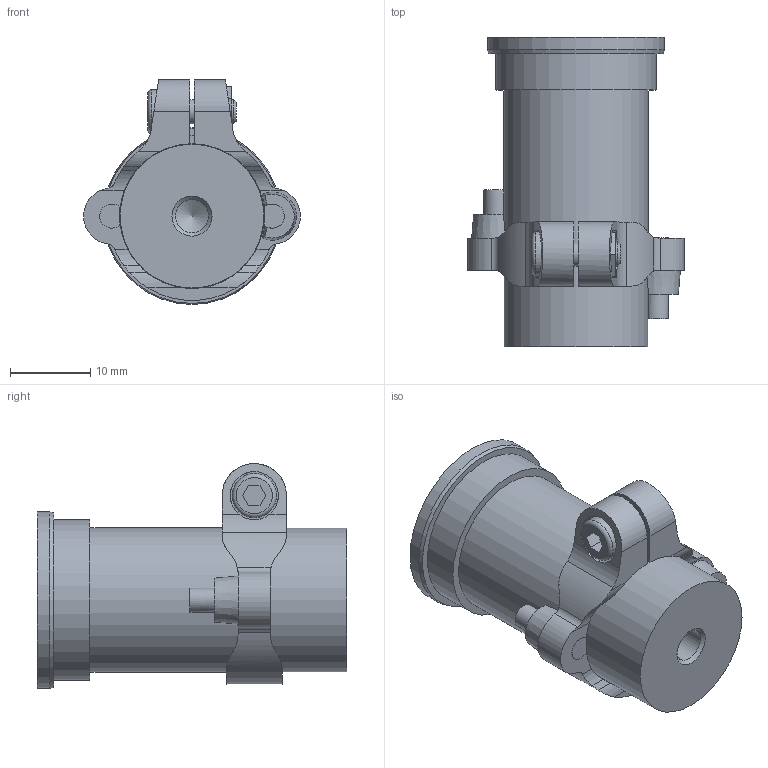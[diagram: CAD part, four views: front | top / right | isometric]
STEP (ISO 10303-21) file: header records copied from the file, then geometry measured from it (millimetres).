
FILE_DESCRIPTION( ( 'STEP AP214' ), '1' );
FILE_NAME( 'p:/temp/worker_19/temp/exporttempdir_4352_696_3KkyK/format_0/AMF559089.stp', '2020-03-20T07:03:24', ( 'License CC BY-ND 4.0' ), ( 'CADENAS' ), ' ', 'PARTsolutions', ' ' );
FILE_SCHEMA( ( 'AUTOMOTIVE_DESIGN { 1 0 10303 214 1 1 1 1 }' ) );
Length unit declared in the file: millimetre
Products named in the file (3): AMF559089; _AMF427286; _AMF559403
Assembly tree (2 placements, depth 2):
  AMF559089
    _AMF427286
    _AMF559403
Bounding box: 26.98 x 38.5 x 28 mm (x, y, z)
Volume: 10540.4 mm3; surface area: 5263.9 mm2
Topology: 2 solids, 2 shells, 129 faces, 333 edges, 218 vertices
Faces by surface type: plane 62, cylinder 54, cone 12, torus 1
Full cylindrical faces by diameter (mm): 3 x2, 3.1 x2, 3.2 x2, 4.134 x1, 5.5 x1, 6 x1, 10 x1, 17.9 x1, 18 x1, 20 x1, 22 x1
Entity records: 5084 total; most frequent: CARTESIAN_POINT 946, DIRECTION 642, ORIENTED_EDGE 610, EDGE_CURVE 305, AXIS2_PLACEMENT_3D 254, VERTEX_POINT 214, EDGE_LOOP 162, FACE_OUTER_BOUND 144
